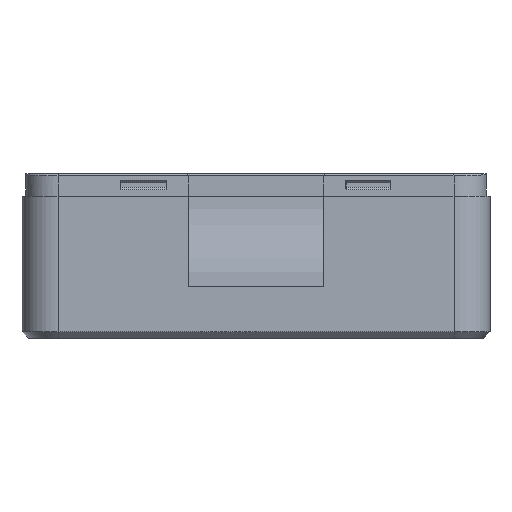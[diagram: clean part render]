
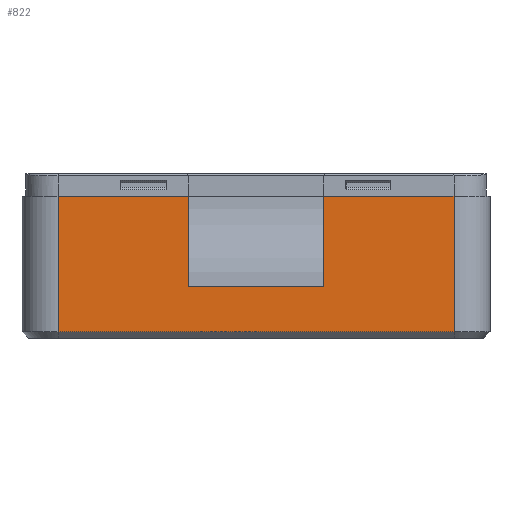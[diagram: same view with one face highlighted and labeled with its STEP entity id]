
A CAD part, front view. The second image highlights one B-rep face of the part: STEP entity #822.
In plain terms, the highlighted planar face has unit normal (0, -1, 0).
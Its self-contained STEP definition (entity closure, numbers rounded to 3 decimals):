
#822=ADVANCED_FACE('',(#1781),#15550,.T.);
#1781=FACE_OUTER_BOUND('',#2742,.T.);
#2742=EDGE_LOOP('',(#6883,#6884,#6885,#6886,#6887,#6888,#6889,#6890));
#6883=ORIENTED_EDGE('',*,*,#10560,.T.);
#6884=ORIENTED_EDGE('',*,*,#10547,.T.);
#6885=ORIENTED_EDGE('',*,*,#10496,.F.);
#6886=ORIENTED_EDGE('',*,*,#10493,.F.);
#6887=ORIENTED_EDGE('',*,*,#10492,.T.);
#6888=ORIENTED_EDGE('',*,*,#10494,.T.);
#6889=ORIENTED_EDGE('',*,*,#10465,.F.);
#6890=ORIENTED_EDGE('',*,*,#10548,.F.);
#10465=EDGE_CURVE('',#15040,#15064,#13421,.T.);
#10492=EDGE_CURVE('',#15065,#15066,#10848,.T.);
#10493=EDGE_CURVE('',#15065,#15063,#10849,.T.);
#10494=EDGE_CURVE('',#15066,#15064,#10850,.T.);
#10496=EDGE_CURVE('',#15063,#15039,#13432,.T.);
#10547=EDGE_CURVE('',#15108,#15039,#13435,.T.);
#10548=EDGE_CURVE('',#15107,#15040,#13436,.T.);
#10560=EDGE_CURVE('',#15107,#15108,#10900,.T.);
#10848=B_SPLINE_CURVE_WITH_KNOTS('',1,(#26579,#26580),.UNSPECIFIED.,.F.,
 .F.,(2,2),(0.,30.),.UNSPECIFIED.);
#10849=B_SPLINE_CURVE_WITH_KNOTS('',1,(#26581,#26582),.UNSPECIFIED.,.F.,
 .F.,(2,2),(-20.,0.),.UNSPECIFIED.);
#10850=B_SPLINE_CURVE_WITH_KNOTS('',1,(#26583,#26584),.UNSPECIFIED.,.F.,
 .F.,(2,2),(-20.,0.),.UNSPECIFIED.);
#10900=B_SPLINE_CURVE_WITH_KNOTS('',1,(#26739,#26740),.UNSPECIFIED.,.F.,
 .F.,(2,2),(0.,88.),.UNSPECIFIED.);
#13421=(
BOUNDED_CURVE()
B_SPLINE_CURVE(2,(#26507,#26508,#26509),.UNSPECIFIED.,.F.,.F.)
B_SPLINE_CURVE_WITH_KNOTS((3,3),(212.566,241.566),
 .UNSPECIFIED.)
CURVE()
GEOMETRIC_REPRESENTATION_ITEM()
RATIONAL_B_SPLINE_CURVE((1.,1.,1.))
REPRESENTATION_ITEM('')
);
#13432=(
BOUNDED_CURVE()
B_SPLINE_CURVE(2,(#26588,#26589,#26590),.UNSPECIFIED.,.F.,.F.)
B_SPLINE_CURVE_WITH_KNOTS((3,3),(271.566,300.566),
 .UNSPECIFIED.)
CURVE()
GEOMETRIC_REPRESENTATION_ITEM()
RATIONAL_B_SPLINE_CURVE((1.,1.,1.))
REPRESENTATION_ITEM('')
);
#13435=(
BOUNDED_CURVE()
B_SPLINE_CURVE(1,(#26709,#26710),.UNSPECIFIED.,.F.,.F.)
B_SPLINE_CURVE_WITH_KNOTS((2,2),(1.5,31.6),.UNSPECIFIED.)
CURVE()
GEOMETRIC_REPRESENTATION_ITEM()
RATIONAL_B_SPLINE_CURVE((1.,1.))
REPRESENTATION_ITEM('')
);
#13436=(
BOUNDED_CURVE()
B_SPLINE_CURVE(1,(#26711,#26712),.UNSPECIFIED.,.F.,.F.)
B_SPLINE_CURVE_WITH_KNOTS((2,2),(1.5,31.6),.UNSPECIFIED.)
CURVE()
GEOMETRIC_REPRESENTATION_ITEM()
RATIONAL_B_SPLINE_CURVE((1.,1.))
REPRESENTATION_ITEM('')
);
#15039=VERTEX_POINT('',#20267);
#15040=VERTEX_POINT('',#20268);
#15063=VERTEX_POINT('',#20291);
#15064=VERTEX_POINT('',#20292);
#15065=VERTEX_POINT('',#20293);
#15066=VERTEX_POINT('',#20294);
#15107=VERTEX_POINT('',#20335);
#15108=VERTEX_POINT('',#20336);
#15550=PLANE('',#16621);
#16621=AXIS2_PLACEMENT_3D('',#18329,#17475,$);
#17475=DIRECTION('',(0.,-1.,0.));
#18329=CARTESIAN_POINT('',(-44.,-112.5,-1.6));
#20267=CARTESIAN_POINT('',(44.,-112.5,30.));
#20268=CARTESIAN_POINT('',(-44.,-112.5,30.));
#20291=CARTESIAN_POINT('',(15.,-112.5,30.));
#20292=CARTESIAN_POINT('',(-15.,-112.5,30.));
#20293=CARTESIAN_POINT('',(15.,-112.5,10.));
#20294=CARTESIAN_POINT('',(-15.,-112.5,10.));
#20335=CARTESIAN_POINT('',(-44.,-112.5,-0.1));
#20336=CARTESIAN_POINT('',(44.,-112.5,-0.1));
#26507=CARTESIAN_POINT('',(-44.,-112.5,30.));
#26508=CARTESIAN_POINT('',(-29.5,-112.5,30.));
#26509=CARTESIAN_POINT('',(-15.,-112.5,30.));
#26579=CARTESIAN_POINT('',(15.,-112.5,10.));
#26580=CARTESIAN_POINT('',(-15.,-112.5,10.));
#26581=CARTESIAN_POINT('',(15.,-112.5,10.));
#26582=CARTESIAN_POINT('',(15.,-112.5,30.));
#26583=CARTESIAN_POINT('',(-15.,-112.5,10.));
#26584=CARTESIAN_POINT('',(-15.,-112.5,30.));
#26588=CARTESIAN_POINT('',(15.,-112.5,30.));
#26589=CARTESIAN_POINT('',(29.5,-112.5,30.));
#26590=CARTESIAN_POINT('',(44.,-112.5,30.));
#26709=CARTESIAN_POINT('',(44.,-112.5,-0.1));
#26710=CARTESIAN_POINT('',(44.,-112.5,30.));
#26711=CARTESIAN_POINT('',(-44.,-112.5,-0.1));
#26712=CARTESIAN_POINT('',(-44.,-112.5,30.));
#26739=CARTESIAN_POINT('',(-44.,-112.5,-0.1));
#26740=CARTESIAN_POINT('',(44.,-112.5,-0.1));
